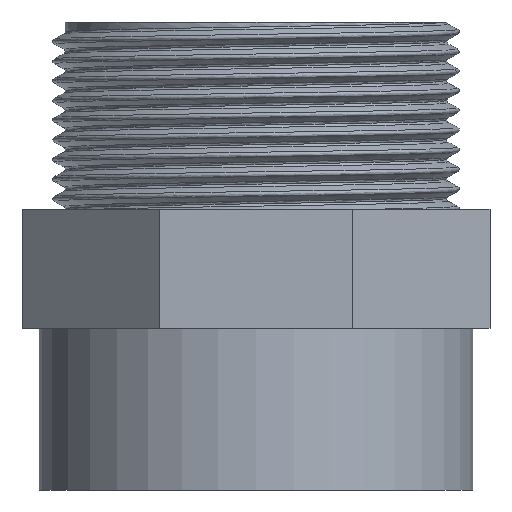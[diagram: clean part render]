
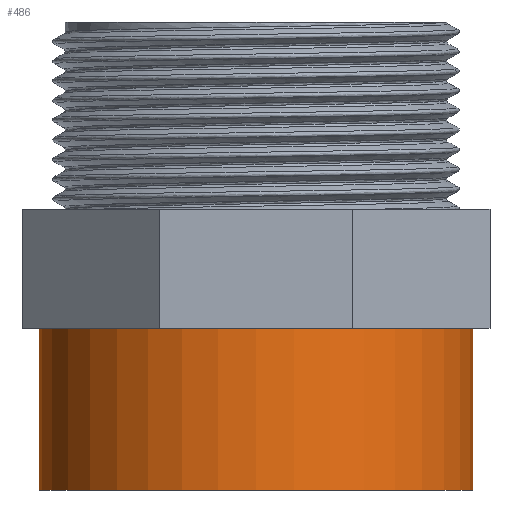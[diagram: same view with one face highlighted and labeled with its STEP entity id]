
A CAD part, front view. The second image highlights one B-rep face of the part: STEP entity #486.
In plain terms, the highlighted cylindrical face has radius 25.5 mm (diameter 51 mm), a full revolution.
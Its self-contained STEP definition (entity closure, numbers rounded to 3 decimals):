
#16=FACE_BOUND('',#160,.T.);
#25=CYLINDRICAL_SURFACE('',#518,25.5);
#128=FACE_OUTER_BOUND('',#159,.T.);
#159=EDGE_LOOP('',(#424));
#160=EDGE_LOOP('',(#425));
#180=CIRCLE('',#517,25.5);
#181=CIRCLE('',#519,25.5);
#247=VERTEX_POINT('',#8240);
#248=VERTEX_POINT('',#8243);
#314=EDGE_CURVE('',#247,#247,#180,.T.);
#315=EDGE_CURVE('',#248,#248,#181,.T.);
#424=ORIENTED_EDGE('',*,*,#314,.T.);
#425=ORIENTED_EDGE('',*,*,#315,.T.);
#486=ADVANCED_FACE('',(#128,#16),#25,.T.);
#517=AXIS2_PLACEMENT_3D('',#8241,#606,#607);
#518=AXIS2_PLACEMENT_3D('',#8242,#608,#609);
#519=AXIS2_PLACEMENT_3D('',#8244,#610,#611);
#606=DIRECTION('center_axis',(0.,0.,-1.));
#607=DIRECTION('ref_axis',(1.,0.,0.));
#608=DIRECTION('center_axis',(0.,0.,1.));
#609=DIRECTION('ref_axis',(1.,0.,0.));
#610=DIRECTION('center_axis',(0.,0.,1.));
#611=DIRECTION('ref_axis',(1.,0.,0.));
#8240=CARTESIAN_POINT('',(25.5,0.,19.));
#8241=CARTESIAN_POINT('Origin',(0.,0.,19.));
#8242=CARTESIAN_POINT('Origin',(0.,0.,16.5));
#8243=CARTESIAN_POINT('',(25.5,0.,0.));
#8244=CARTESIAN_POINT('Origin',(0.,0.,0.));
